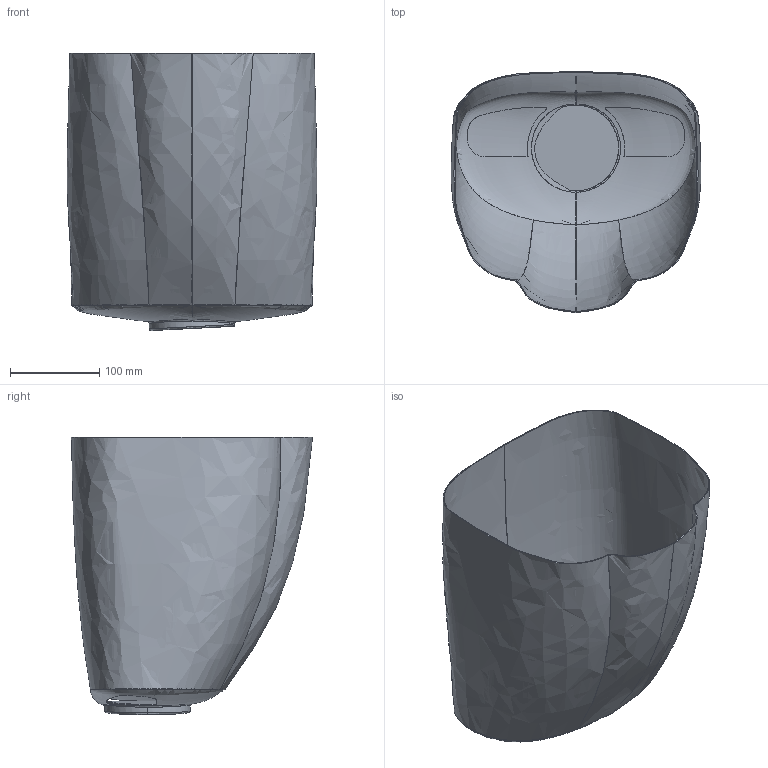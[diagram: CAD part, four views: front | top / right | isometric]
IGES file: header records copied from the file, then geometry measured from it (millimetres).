
Start section: SolidWorks IGES file using analytic representation for surfaces
Global section: file name: E:\Users\Åâãåíèé\Desktop\Ñàìîë¸òû\MXAircraft\MX-2\äëÿ ñòàíêà Vr-2\DXF\MX-2\êàïîò.IGS; native system: SolidWorks 2010; preprocessor: SolidWorks 2010; author: Åâãåíèé; date: 140114.230409; units: millimetre
Bounding box: 279.96 x 270.31 x 310.77 mm (x, y, z)
Surface area: 559311 mm2 (no closed solid volume)
Topology: 0 solids, 0 shells, 72 faces, 2598 edges, 2594 vertices
Faces by surface type: bspline 48, revolution 24
